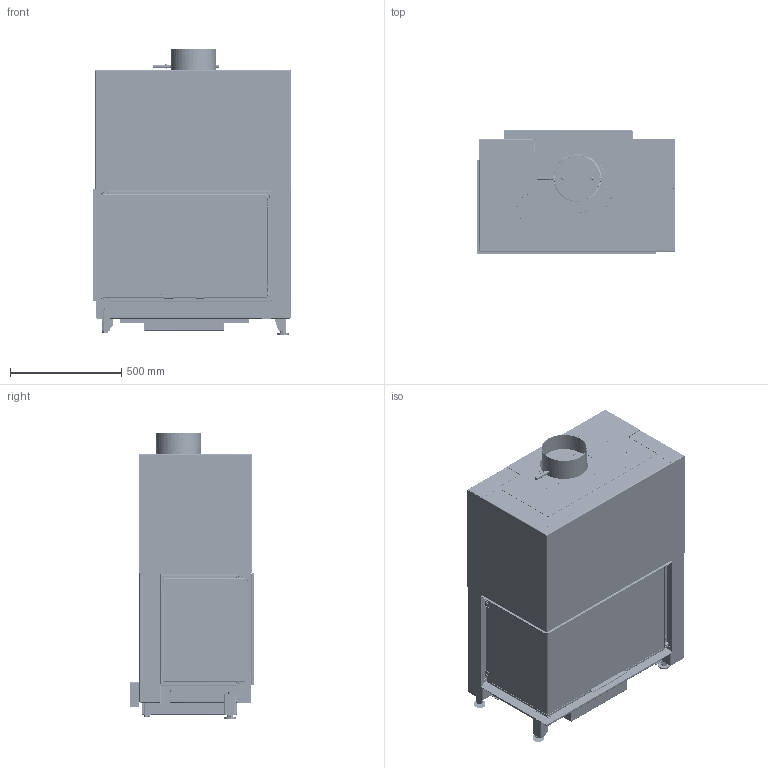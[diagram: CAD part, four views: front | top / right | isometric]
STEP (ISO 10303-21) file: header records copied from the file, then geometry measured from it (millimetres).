
FILE_DESCRIPTION(/* description */ (''),/* implementation_level */ '2;1');
FILE_NAME(/* name */ 'C:\ADSK_DM_WS\CAD_3D\03 Geraete\RII 50x80x42\Zeichnungen\RII_50x80x42_Links_mit_Mantel_Gen2_2022-03181.stp',/* time_stamp */ '2022-08-03T08:10:58+02:00',/* author */ ('TIS'),/* organization */ (''),/* preprocessor_version */ 'ST-DEVELOPER v18.1',/* originating_system */ 'Autodesk Inventor 2022',/* authorisation */ '');
FILE_SCHEMA (('AUTOMOTIVE_DESIGN { 1 0 10303 214 3 1 1 }'));
Products named in the file (8): 2022-03181; 2022-03180; 2022-03178; 2022-03177; 2022-03176; 2022-03175; 2022-03174; 2022-03173
Assembly tree (7 placements, depth 2):
  2022-03181
    2022-03180
    2022-03178
    2022-03177
    2022-03176
    2022-03175
    2022-03174
    2022-03173
Bounding box: 888.9 x 557.51 x 1288.56 mm (x, y, z)
Volume: 48919944.2 mm3; surface area: 19597189.8 mm2
Topology: 21 solids, 32 shells, 10316 faces, 27575 edges, 17219 vertices
Faces by surface type: plane 6049, cylinder 3759, bspline 245, cone 182, torus 65, sphere 16
Full cylindrical faces by diameter (mm): 3 x2, 3.242 x6, 4.5 x4, 4.8 x10, 5 x1, 6 x4, 7.5 x1, 7.9 x1, 8 x8, 9 x4, 9.5 x10, 10 x7, 10.21 x2, 11.192 x4, 11.4 x6, 12 x2, 14.63 x1, 16 x16, 20 x4, 30 x4, 60 x2, 163 x1, 333 x1, 339 x1
Entity records: 340127 total; most frequent: CARTESIAN_POINT 67719, DIRECTION 55129, ORIENTED_EDGE 55112, EDGE_CURVE 27603, AXIS2_PLACEMENT_3D 18577, LINE 17975, VECTOR 17975, VERTEX_POINT 17221
